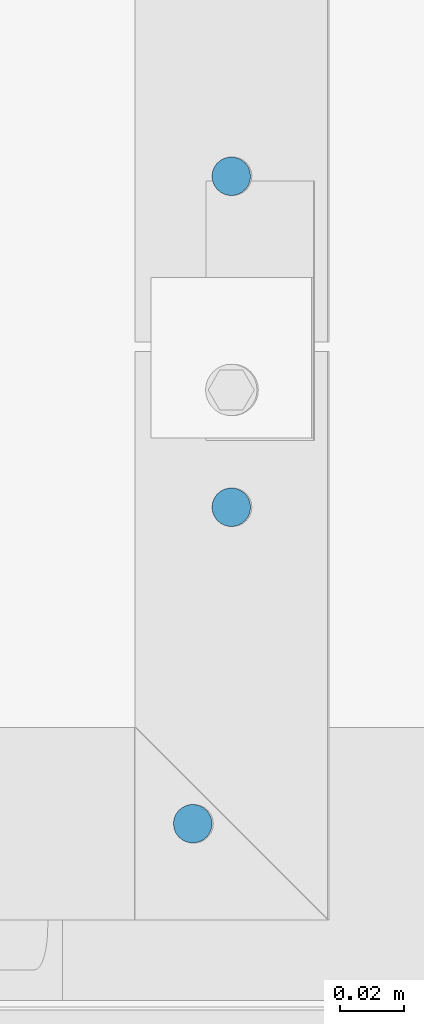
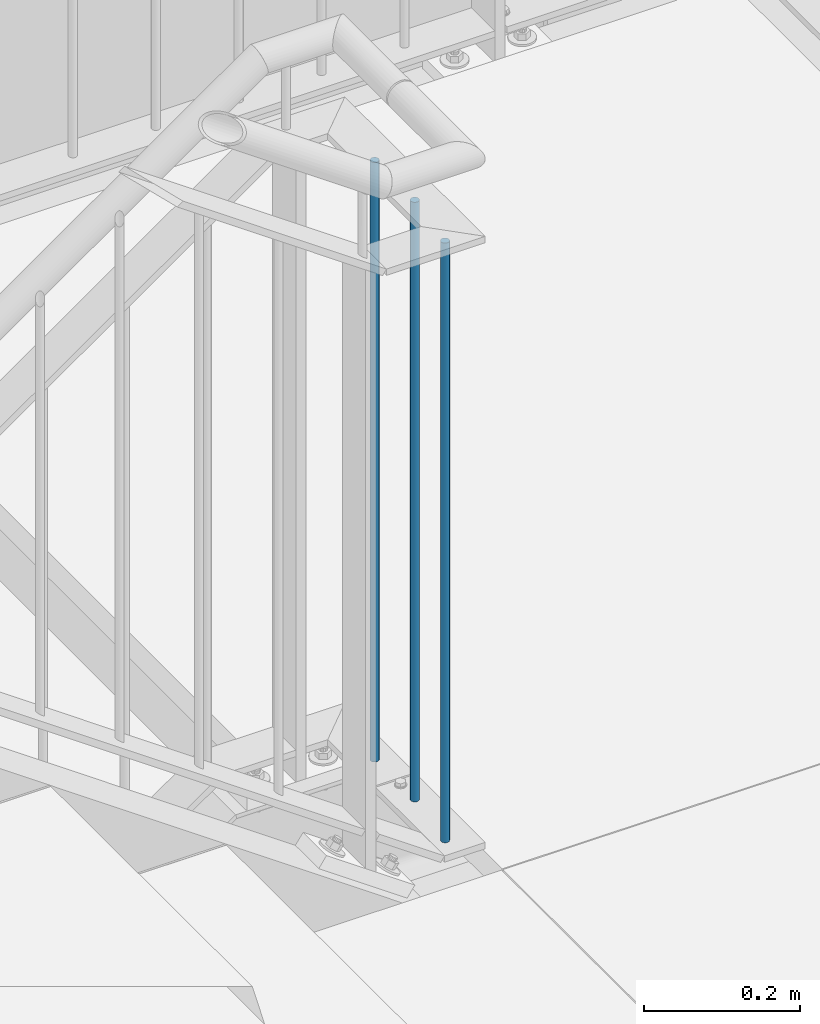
# One storey, part 91 of 825: 3 columns.
"""IFC2X3 building model written with IfcOpenShell, lengths in millimetres."""

from ifc_helpers import new_model, entity, si_unit, converted_unit, frame, origin, origin_with_axes, origin_2d, place, context, project, spatial, circle, extrude, material, element, save


model = new_model("IFC2X3")

# Units and contexts
model_context = context("Model", 3, precision=1e-09, world=origin_with_axes())
ifc_project = project(units=[si_unit("LENGTHUNIT", "METRE", prefix="MILLI"), si_unit("AREAUNIT", "SQUARE_METRE"), si_unit("VOLUMEUNIT", "CUBIC_METRE"), converted_unit("PLANEANGLEUNIT", "DEGREE", entity("IfcPlaneAngleMeasure", 0.01745329), si_unit("PLANEANGLEUNIT", "RADIAN"), dimensions=[0, 0, 0, 0, 0, 0, 0])], contexts=[model_context])

# Site, building, storey
site_placement = place(None, origin_with_axes())
site = spatial("IfcSite", under=ifc_project, at=site_placement, Name="Cnopf'sche Kinderklinik", CompositionType="ELEMENT")
building_placement = place(site_placement, origin_with_axes())
building = spatial("IfcBuilding", under=site, at=building_placement, Name="Struktur 1", CompositionType="ELEMENT")
storey_placement = place(building_placement, origin_with_axes())
storey = spatial("IfcBuildingStorey", under=building, at=storey_placement, Name="Default Storey", CompositionType="ELEMENT", Elevation=0.0)

# Columns
ifc_material = material(Name="S235JR")
for number, where, z_axis, x_axis, name in (
    (1, (7674.115085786, 5791.736971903, 6683.6947367), (0.0, 0.0, 1.0), (-1.0, 0.0, 0.0), "Railing_Picket_Stair#0"),
    (2, (7686.115085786, 5890.236971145, 6683.6947367), (0.0, 0.0, 1.0), (-1.0, 0.0, 0.0), "Railing_Picket_Stair#0"),
    (3, (7686.115085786, 5993.236971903, 6683.6947367), (0.0, 0.0, 1.0), (-1.0, 0.0, 0.0), "Railing_Picket_Stair#0"),
):
    element("IfcColumn", number, at=place(None, frame(where, z_axis=z_axis, x_axis=x_axis)), inside=storey, material=ifc_material, Name=name, ObjectType="Railing_Picket_Stair#0", context=model_context, shape_type="SweptSolid", body=[
        extrude(circle(Radius=6.0, at=origin_2d()), origin(), (0.0, 0.0, -1.0), 938.8),
    ])

save(model, "model.ifc")
